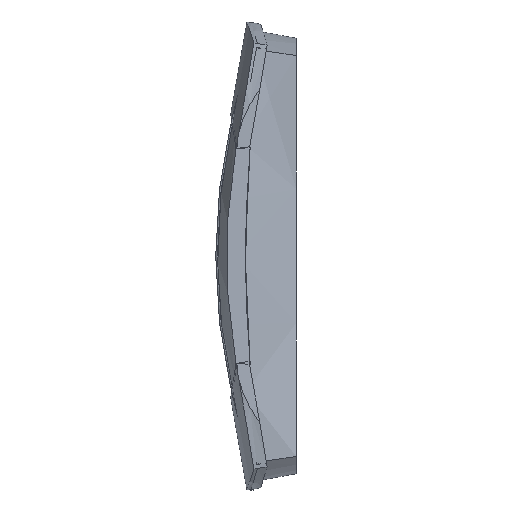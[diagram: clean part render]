
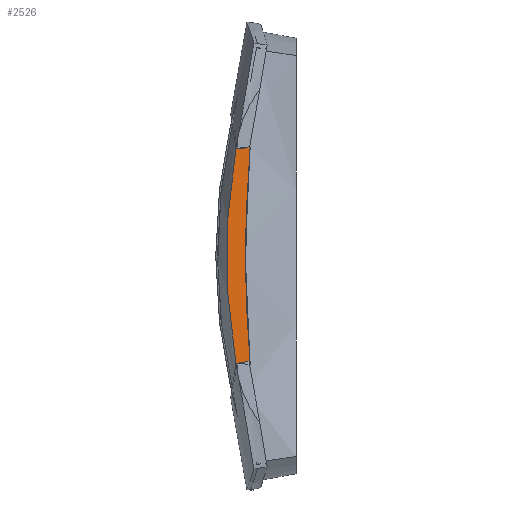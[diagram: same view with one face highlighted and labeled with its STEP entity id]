
A CAD part, left-side view. The second image highlights one B-rep face of the part: STEP entity #2526.
In plain terms, the highlighted planar face has unit normal (-0.994, -0.113, 0) as drawn and (0, -0.113, 0.994) by its records, which use the part's own axes.
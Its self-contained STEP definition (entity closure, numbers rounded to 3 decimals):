
#37 = LINE ( 'NONE', #13207, #5175 ) ;
#288 = DIRECTION ( 'NONE',  ( 0., 0.994, 0.113 ) ) ;
#335 = DIRECTION ( 'NONE',  ( 0., 0.113, -0.994 ) ) ;
#407 = PLANE ( 'NONE',  #910 ) ;
#477 = ORIENTED_EDGE ( 'NONE', *, *, #8424, .T. ) ;
#490 = CARTESIAN_POINT ( 'NONE',  ( -65.443, 1.847, 108.929 ) ) ;
#702 = DIRECTION ( 'NONE',  ( -0.139, 0.984, 0.112 ) ) ;
#734 = AXIS2_PLACEMENT_3D ( 'NONE', #3689, #3657, #3626 ) ;
#790 = ORIENTED_EDGE ( 'NONE', *, *, #15222, .T. ) ;
#828 = CARTESIAN_POINT ( 'NONE',  ( -89.438, -2., 108.491 ) ) ;
#910 = AXIS2_PLACEMENT_3D ( 'NONE', #828, #335, #288 ) ;
#1156 = EDGE_CURVE ( 'NONE', #18834, #8267, #3005, .T. ) ;
#2404 = ORIENTED_EDGE ( 'NONE', *, *, #21333, .T. ) ;
#2526 = ADVANCED_FACE ( 'NONE', ( #10633 ), #407, .F. ) ;
#3005 = CIRCLE ( 'NONE', #734, 370. ) ;
#3602 = VECTOR ( 'NONE', #702, 1000. ) ;
#3626 = DIRECTION ( 'NONE',  ( 0., 0.994, 0.113 ) ) ;
#3657 = DIRECTION ( 'NONE',  ( 0., 0.113, -0.994 ) ) ;
#3679 = CARTESIAN_POINT ( 'NONE',  ( 22.296, -3.157, 108.359 ) ) ;
#3689 = CARTESIAN_POINT ( 'NONE',  ( 0., -359.978, 67.704 ) ) ;
#3869 = CARTESIAN_POINT ( 'NONE',  ( -65.527, 0.099, 108.73 ) ) ;
#5175 = VECTOR ( 'NONE', #8148, 1000. ) ;
#5402 = CARTESIAN_POINT ( 'NONE',  ( -66.425, -6.828, 107.941 ) ) ;
#5623 = CARTESIAN_POINT ( 'NONE',  ( 65.443, 1.847, 108.929 ) ) ;
#8148 = DIRECTION ( 'NONE',  ( -0.139, -0.984, -0.112 ) ) ;
#8267 = VERTEX_POINT ( 'NONE', #9986 ) ;
#8424 = EDGE_CURVE ( 'NONE', #14351, #18041, #17191, .T. ) ;
#8727 = CARTESIAN_POINT ( 'NONE',  ( -22.296, -3.157, 108.359 ) ) ;
#9986 = CARTESIAN_POINT ( 'NONE',  ( 65.443, 1.847, 108.929 ) ) ;
#10396 = CARTESIAN_POINT ( 'NONE',  ( 66.425, -6.828, 107.941 ) ) ;
#10399 = EDGE_CURVE ( 'NONE', #19677, #18834, #20906, .T. ) ;
#10609 = CARTESIAN_POINT ( 'NONE',  ( -65.569, -0.775, 108.63 ) ) ;
#10633 = FACE_OUTER_BOUND ( 'NONE', #10907, .T. ) ;
#10690 = CARTESIAN_POINT ( 'NONE',  ( -65.485, 0.973, 108.83 ) ) ;
#10907 = EDGE_LOOP ( 'NONE', ( #18866, #15355, #790, #477, #2404, #21249 ) ) ;
#12223 = CARTESIAN_POINT ( 'NONE',  ( -65.569, -0.775, 108.63 ) ) ;
#12318 = CARTESIAN_POINT ( 'NONE',  ( 65.527, 0.099, 108.73 ) ) ;
#13207 = CARTESIAN_POINT ( 'NONE',  ( -65.569, -0.775, 108.63 ) ) ;
#14016 = CARTESIAN_POINT ( 'NONE',  ( 65.569, -0.775, 108.63 ) ) ;
#14157 = CARTESIAN_POINT ( 'NONE',  ( -66.425, -6.828, 107.941 ) ) ;
#14351 = VERTEX_POINT ( 'NONE', #14157 ) ;
#15222 = EDGE_CURVE ( 'NONE', #19677, #14351, #37, .T. ) ;
#15355 = ORIENTED_EDGE ( 'NONE', *, *, #10399, .F. ) ;
#15486 = EDGE_CURVE ( 'NONE', #21639, #8267, #18811, .T. ) ;
#15737 = CARTESIAN_POINT ( 'NONE',  ( 65.485, 0.973, 108.83 ) ) ;
#17174 = CARTESIAN_POINT ( 'NONE',  ( 66.425, -6.828, 107.941 ) ) ;
#17191 = B_SPLINE_CURVE_WITH_KNOTS ( 'NONE', 3,
 ( #5402, #8727, #3679, #17174 ),
 .UNSPECIFIED., .F., .F.,
 ( 4, 4 ),
 ( -0.083, 0.083 ),
 .UNSPECIFIED. ) ;
#17577 = CARTESIAN_POINT ( 'NONE',  ( 65.569, -0.775, 108.63 ) ) ;
#18041 = VERTEX_POINT ( 'NONE', #10396 ) ;
#18620 = CARTESIAN_POINT ( 'NONE',  ( 65.569, -0.775, 108.63 ) ) ;
#18811 =( BOUNDED_CURVE ( )  B_SPLINE_CURVE ( 3, ( #14016, #12318, #15737, #5623 ),
 .UNSPECIFIED., .F., .T. ) 
 B_SPLINE_CURVE_WITH_KNOTS ( ( 4, 4 ),
 ( 5.111, 5.112 ),
 .UNSPECIFIED. ) 
 CURVE ( )  GEOMETRIC_REPRESENTATION_ITEM ( )  RATIONAL_B_SPLINE_CURVE ( ( 1., 1., 1., 1. ) ) 
 REPRESENTATION_ITEM ( '' )  );
#18834 = VERTEX_POINT ( 'NONE', #21544 ) ;
#18866 = ORIENTED_EDGE ( 'NONE', *, *, #1156, .F. ) ;
#19677 = VERTEX_POINT ( 'NONE', #12223 ) ;
#20906 =( BOUNDED_CURVE ( )  B_SPLINE_CURVE ( 3, ( #10609, #3869, #10690, #490 ),
 .UNSPECIFIED., .F., .T. ) 
 B_SPLINE_CURVE_WITH_KNOTS ( ( 4, 4 ),
 ( 5.111, 5.112 ),
 .UNSPECIFIED. ) 
 CURVE ( )  GEOMETRIC_REPRESENTATION_ITEM ( )  RATIONAL_B_SPLINE_CURVE ( ( 1., 1., 1., 1. ) ) 
 REPRESENTATION_ITEM ( '' )  );
#21102 = LINE ( 'NONE', #17577, #3602 ) ;
#21249 = ORIENTED_EDGE ( 'NONE', *, *, #15486, .T. ) ;
#21333 = EDGE_CURVE ( 'NONE', #18041, #21639, #21102, .T. ) ;
#21544 = CARTESIAN_POINT ( 'NONE',  ( -65.443, 1.847, 108.929 ) ) ;
#21639 = VERTEX_POINT ( 'NONE', #18620 ) ;
